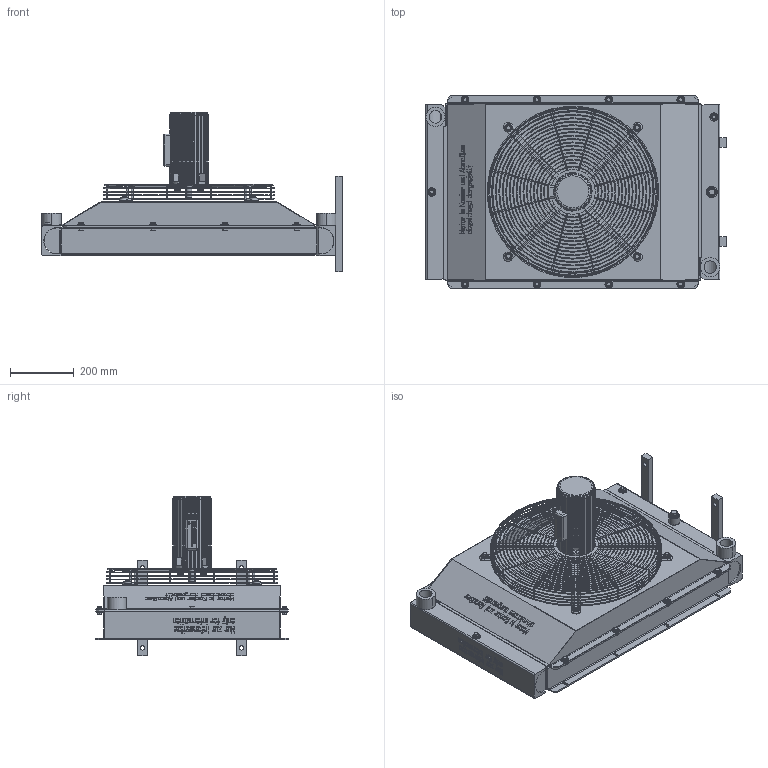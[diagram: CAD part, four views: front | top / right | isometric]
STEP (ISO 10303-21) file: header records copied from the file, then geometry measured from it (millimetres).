
FILE_DESCRIPTION((' '),'1');
FILE_NAME('5207_203_0000.step','2007-09-28 T',(' '),(' '),'STEP Interface v1.0 by CT CoreTechnologie','3D_Evolution v1.0 by CT CoreTechnologie',' ');
FILE_SCHEMA(('AUTOMOTIVE_DESIGN_CC2 { 1 2 10303 214 -1 1 5 2 }'));
Length unit declared in the file: millimetre
Products named in the file (99): 5207_203_0000; 603505; 6004041; 6004042; 6004043; 6004044; 5205_104_00101; 5205_104_00102; Sechskantschraube_ISO_4017-M6x25-8_8-A3B1; Sechskantschraube_ISO_4017-M6x25-8_8-A3B2; Sechskantschraube_ISO_4017-M6x25-8_8-A3B3; Sechskantschraube_ISO_4017-M6x25-8_8-A3B4; 603804; 8054_011_00001; 8054_011_00002; 8054_011_00003; 8054_011_00004; 8407_173_2505; Sechskantschraube_ISO_4017-M8x25-8_8-A3B1; Sechskantschraube_ISO_4017-M8x25-8_8-A3B2; Sechskantschraube_ISO_4017-M8x25-8_8-A3B3; Sechskantschraube_ISO_4017-M8x25-8_8-A3B4; 6038281; 6038282; 6038283; 6038284; 8402_437_00001; 8402_437_00002; 8402_437_00003; 8402_437_00004; 8402_437_00005; 8402_437_00006; 8402_437_00007; 8402_437_00008; 8402_437_00009; 8402_437_000010; 8402_437_000011; 8402_437_000012; 8402_437_000013; 8402_437_000014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
Assembly tree (142 placements, depth 4):
  5207_203_0000
    603505  x20
    6004041
    6004042
    6004043
    6004044
    5205_104_00101
    5205_104_00102
    Sechskantschraube_ISO_4017-M6x25-8_8-A3B1
    Sechskantschraube_ISO_4017-M6x25-8_8-A3B2
    Sechskantschraube_ISO_4017-M6x25-8_8-A3B3
    Sechskantschraube_ISO_4017-M6x25-8_8-A3B4
    603804  x4
    8054_011_00001
    8054_011_00002
    8054_011_00003
    8054_011_00004
    8407_173_2505
    Sechskantschraube_ISO_4017-M8x25-8_8-A3B1
    Sechskantschraube_ISO_4017-M8x25-8_8-A3B2
    Sechskantschraube_ISO_4017-M8x25-8_8-A3B3
    Sechskantschraube_ISO_4017-M8x25-8_8-A3B4
    6038281
    6038282
    6038283
    6038284
    8402_437_00001
    8402_437_00002
    8402_437_00003
    8402_437_00004
    8402_437_00005
    8402_437_00006
    8402_437_00007
    8402_437_00008
    8402_437_00009
    8402_437_000010
    8402_437_000011
    8402_437_000012
    8402_437_000013
    8402_437_000014
    8402_437_000015
    8402_437_000016
    8402_437_000017
    8402_437_000018
    8402_437_000019
    8402_437_000020
    8402_437_000021
    8402_437_000022
    8402_437_000023
    8402_437_000024
    8402_437_000025
    8402_437_000026
    8402_437_000027
    8402_437_000028
    8402_437_000029
    8402_437_000030
    8402_437_000031
    8402_437_000032
    8402_437_000033
    8402_437_000034
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Bounding box: 940.5 x 602 x 500 mm (x, y, z)
Volume: 47283738.1 mm3; surface area: 3532726.9 mm2
Topology: 136 solids, 137 shells, 4094 faces, 10227 edges, 6580 vertices
Faces by surface type: plane 2238, cylinder 778, bspline 526, torus 302, cone 246, sphere 4
Entity records: 182212 total; most frequent: CARTESIAN_POINT 61348, ORIENTED_EDGE 18498, DIRECTION 17006, EDGE_CURVE 9261, VERTEX_POINT 5964, VECTOR 5904, LINE 5904, AXIS2_PLACEMENT_3D 5551
